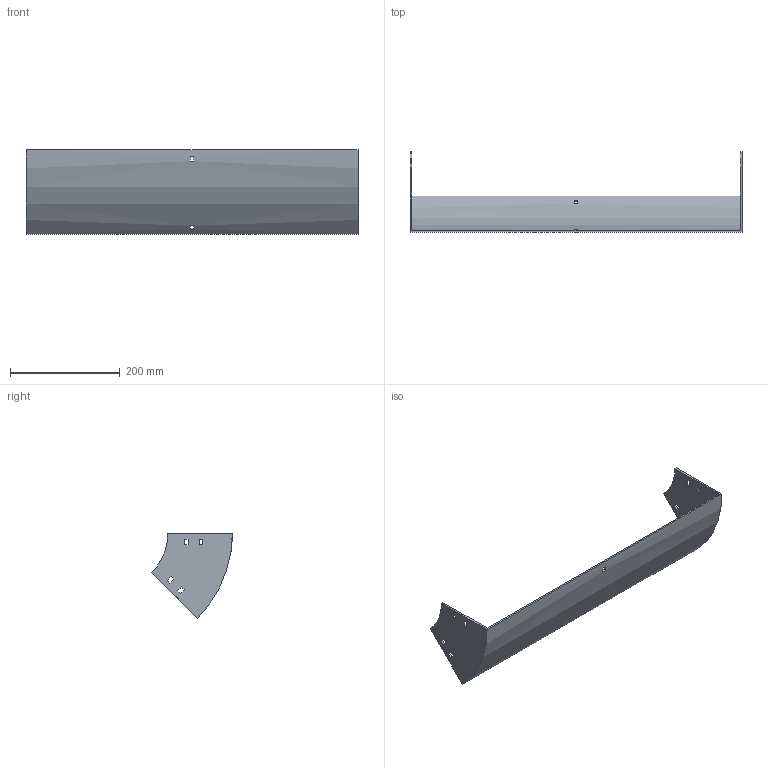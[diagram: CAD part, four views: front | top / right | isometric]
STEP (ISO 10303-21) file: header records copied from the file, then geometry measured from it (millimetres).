
FILE_DESCRIPTION (( 'STEP AP214' ), '1' );
FILE_NAME ('31B1J600.step', '2025-02-21T09:46:20', ( '' ), ( '' ), 'SwSTEP 2.0', 'SolidWorks 2023', '' );
FILE_SCHEMA (( 'AUTOMOTIVE_DESIGN' ));
Length unit declared in the file: millimetre
Products named in the file (1): 31B1J600
Bounding box: 604 x 146.79 x 153.8 mm (x, y, z)
Volume: 454245.2 mm3; surface area: 267121.8 mm2
Topology: 1 solids, 1 shells, 50 faces, 144 edges, 96 vertices
Faces by surface type: plane 46, cylinder 4
Entity records: 1687 total; most frequent: CARTESIAN_POINT 291, ORIENTED_EDGE 288, DIRECTION 262, EDGE_CURVE 144, LINE 128, VECTOR 128, VERTEX_POINT 96, EDGE_LOOP 70
